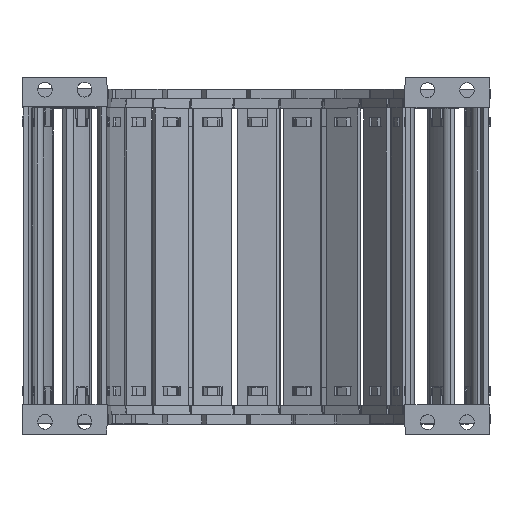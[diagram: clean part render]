
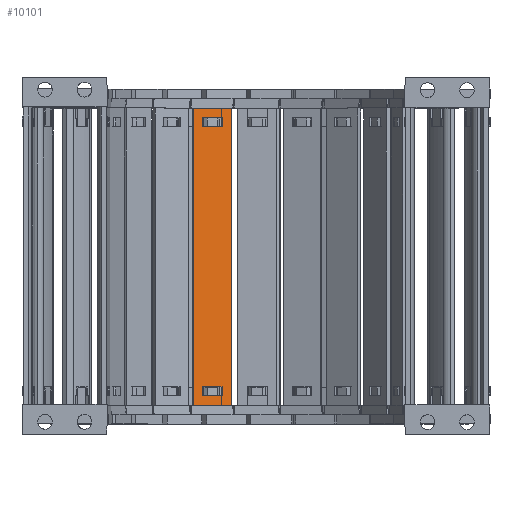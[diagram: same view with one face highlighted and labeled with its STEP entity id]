
A CAD part, top view. The second image highlights one B-rep face of the part: STEP entity #10101.
In plain terms, the highlighted planar face has unit normal (0.259, 0, 0.966).
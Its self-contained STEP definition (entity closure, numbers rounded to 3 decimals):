
#4663=FACE_BOUND('',#23383,.T.);
#4664=FACE_BOUND('',#23384,.T.);
#4665=FACE_BOUND('',#23385,.T.);
#5651=PLANE('',#121248);
#10101=ADVANCED_FACE('',(#4663,#4664,#4665),#5651,.F.);
#23383=EDGE_LOOP('',(#38223,#38224,#38225,#38226));
#23384=EDGE_LOOP('',(#38227,#38228,#38229,#38230));
#23385=EDGE_LOOP('',(#38231,#38232,#38233,#38234));
#38223=ORIENTED_EDGE('',*,*,#81626,.F.);
#38224=ORIENTED_EDGE('',*,*,#81597,.F.);
#38225=ORIENTED_EDGE('',*,*,#81631,.F.);
#38226=ORIENTED_EDGE('',*,*,#81608,.F.);
#38227=ORIENTED_EDGE('',*,*,#81643,.F.);
#38228=ORIENTED_EDGE('',*,*,#81636,.F.);
#38229=ORIENTED_EDGE('',*,*,#81675,.F.);
#38230=ORIENTED_EDGE('',*,*,#81650,.T.);
#38231=ORIENTED_EDGE('',*,*,#81673,.T.);
#38232=ORIENTED_EDGE('',*,*,#81676,.F.);
#38233=ORIENTED_EDGE('',*,*,#81677,.F.);
#38234=ORIENTED_EDGE('',*,*,#81678,.F.);
#69013=VERTEX_POINT('',#171403);
#69014=VERTEX_POINT('',#171405);
#69020=VERTEX_POINT('',#171420);
#69023=VERTEX_POINT('',#171426);
#69040=VERTEX_POINT('',#171483);
#69041=VERTEX_POINT('',#171484);
#69047=VERTEX_POINT('',#171498);
#69050=VERTEX_POINT('',#171506);
#69063=VERTEX_POINT('',#171553);
#69064=VERTEX_POINT('',#171555);
#69065=VERTEX_POINT('',#171560);
#69066=VERTEX_POINT('',#171562);
#81597=EDGE_CURVE('',#69013,#69014,#98089,.T.);
#81608=EDGE_CURVE('',#69023,#69020,#98100,.T.);
#81626=EDGE_CURVE('',#69014,#69023,#98115,.T.);
#81631=EDGE_CURVE('',#69020,#69013,#98120,.T.);
#81636=EDGE_CURVE('',#69040,#69041,#98125,.T.);
#81643=EDGE_CURVE('',#69041,#69047,#98132,.T.);
#81650=EDGE_CURVE('',#69050,#69047,#98139,.T.);
#81673=EDGE_CURVE('',#69064,#69063,#98153,.T.);
#81675=EDGE_CURVE('',#69050,#69040,#98155,.T.);
#81676=EDGE_CURVE('',#69065,#69063,#98156,.T.);
#81677=EDGE_CURVE('',#69066,#69065,#98157,.T.);
#81678=EDGE_CURVE('',#69064,#69066,#98158,.T.);
#98089=LINE('',#171404,#109721);
#98100=LINE('',#171427,#109732);
#98115=LINE('',#171462,#109747);
#98120=LINE('',#171471,#109752);
#98125=LINE('',#171482,#109757);
#98132=LINE('',#171497,#109764);
#98139=LINE('',#171510,#109771);
#98153=LINE('',#171554,#109785);
#98155=LINE('',#171558,#109787);
#98156=LINE('',#171559,#109788);
#98157=LINE('',#171561,#109789);
#98158=LINE('',#171563,#109790);
#109721=VECTOR('',#135874,1.);
#109732=VECTOR('',#135889,1.);
#109747=VECTOR('',#135924,1.);
#109752=VECTOR('',#135933,1.);
#109757=VECTOR('',#135942,1.);
#109764=VECTOR('',#135951,1.);
#109771=VECTOR('',#135960,1.);
#109785=VECTOR('',#136010,1.);
#109787=VECTOR('',#136014,1.);
#109788=VECTOR('',#136015,1.);
#109789=VECTOR('',#136016,1.);
#109790=VECTOR('',#136017,1.);
#121248=AXIS2_PLACEMENT_3D('',#171564,#136018,#136019);
#135874=DIRECTION('',(0.966,0.,-0.259));
#135889=DIRECTION('',(-0.966,0.,0.259));
#135924=DIRECTION('',(0.,1.,0.));
#135933=DIRECTION('',(0.,-1.,0.));
#135942=DIRECTION('',(-0.966,0.,0.259));
#135951=DIRECTION('',(0.,-1.,0.));
#135960=DIRECTION('',(-0.966,0.,0.259));
#136010=DIRECTION('',(0.,-1.,0.));
#136014=DIRECTION('',(0.,1.,0.));
#136015=DIRECTION('',(-0.966,0.,0.259));
#136016=DIRECTION('',(0.,-1.,0.));
#136017=DIRECTION('',(0.966,0.,-0.259));
#136018=DIRECTION('',(-0.259,0.,-0.966));
#136019=DIRECTION('',(-0.966,0.,0.259));
#171403=CARTESIAN_POINT('',(-99.114,-116.53,-76.948));
#171404=CARTESIAN_POINT('',(-99.114,-116.53,-76.948));
#171405=CARTESIAN_POINT('',(-91.242,-116.53,-79.058));
#171420=CARTESIAN_POINT('',(-99.114,-112.882,-76.948));
#171426=CARTESIAN_POINT('',(-91.242,-112.882,-79.058));
#171427=CARTESIAN_POINT('',(-91.242,-112.882,-79.058));
#171462=CARTESIAN_POINT('',(-91.242,-147.96,-79.058));
#171471=CARTESIAN_POINT('',(-99.114,-144.36,-76.948));
#171482=CARTESIAN_POINT('',(-91.242,-3.97,-79.058));
#171483=CARTESIAN_POINT('',(-91.242,-3.97,-79.058));
#171484=CARTESIAN_POINT('',(-99.114,-3.97,-76.948));
#171497=CARTESIAN_POINT('',(-99.114,-3.97,-76.948));
#171498=CARTESIAN_POINT('',(-99.114,-7.618,-76.948));
#171506=CARTESIAN_POINT('',(-91.242,-7.618,-79.058));
#171510=CARTESIAN_POINT('',(-91.242,-7.618,-79.058));
#171553=CARTESIAN_POINT('',(-102.809,-120.5,-75.959));
#171554=CARTESIAN_POINT('',(-102.809,0.,-75.959));
#171555=CARTESIAN_POINT('',(-102.809,0.,-75.959));
#171558=CARTESIAN_POINT('',(-91.242,-7.618,-79.058));
#171559=CARTESIAN_POINT('',(-87.547,-120.5,-80.048));
#171560=CARTESIAN_POINT('',(-87.547,-120.5,-80.048));
#171561=CARTESIAN_POINT('',(-87.547,0.,-80.048));
#171562=CARTESIAN_POINT('',(-87.547,0.,-80.048));
#171563=CARTESIAN_POINT('',(-102.809,0.,-75.959));
#171564=CARTESIAN_POINT('',(-85.46,31.74,-80.607));
